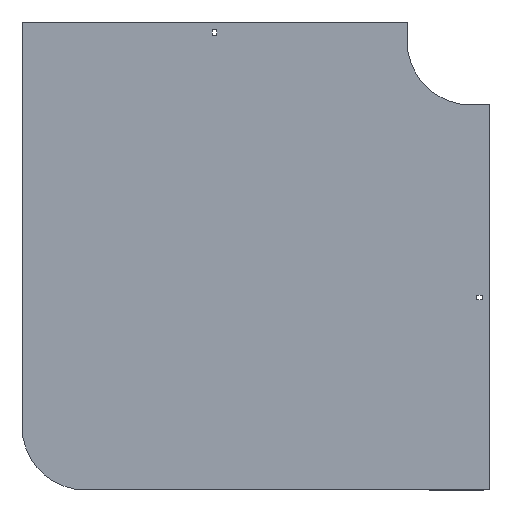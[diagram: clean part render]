
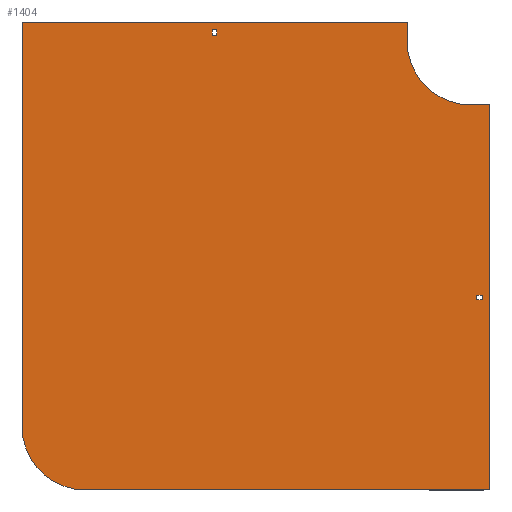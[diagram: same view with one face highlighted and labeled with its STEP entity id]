
A CAD part, front view. The second image highlights one B-rep face of the part: STEP entity #1404.
In plain terms, the highlighted planar face has unit normal (0, -1, 0).
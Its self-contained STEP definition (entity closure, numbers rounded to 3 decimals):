
#8 = CARTESIAN_POINT ( 'NONE',  ( 18., 0., -405.25 ) ) ;
#21 = VERTEX_POINT ( 'NONE', #1930 ) ;
#23 = CARTESIAN_POINT ( 'NONE',  ( 18., 0., -405.25 ) ) ;
#41 = DIRECTION ( 'NONE',  ( 0., 0., -1. ) ) ;
#46 = DIRECTION ( 'NONE',  ( 0., -1., 0. ) ) ;
#74 = DIRECTION ( 'NONE',  ( 0., 0., -1. ) ) ;
#82 = ORIENTED_EDGE ( 'NONE', *, *, #1202, .F. ) ;
#103 = EDGE_CURVE ( 'NONE', #1760, #671, #1568, .T. ) ;
#107 = LINE ( 'NONE', #1190, #1115 ) ;
#117 = CARTESIAN_POINT ( 'NONE',  ( 0., 0., 0. ) ) ;
#131 = CARTESIAN_POINT ( 'NONE',  ( 9., 0., -398.75 ) ) ;
#146 = EDGE_CURVE ( 'NONE', #531, #1051, #1557, .T. ) ;
#157 = VECTOR ( 'NONE', #1189, 1000. ) ;
#175 = LINE ( 'NONE', #1236, #265 ) ;
#181 = CARTESIAN_POINT ( 'NONE',  ( 0., 0., -100. ) ) ;
#184 = FACE_BOUND ( 'NONE', #1017, .T. ) ;
#190 = CARTESIAN_POINT ( 'NONE',  ( -405.25, 0., 9. ) ) ;
#217 = ORIENTED_EDGE ( 'NONE', *, *, #1898, .T. ) ;
#229 = CARTESIAN_POINT ( 'NONE',  ( 9., 0., -405.25 ) ) ;
#231 = ORIENTED_EDGE ( 'NONE', *, *, #238, .F. ) ;
#233 = ORIENTED_EDGE ( 'NONE', *, *, #1103, .F. ) ;
#238 = EDGE_CURVE ( 'NONE', #1575, #1677, #685, .T. ) ;
#244 = ORIENTED_EDGE ( 'NONE', *, *, #612, .T. ) ;
#245 = CARTESIAN_POINT ( 'NONE',  ( -405.25, 0., 9. ) ) ;
#257 = DIRECTION ( 'NONE',  ( -1., 0., 0. ) ) ;
#265 = VECTOR ( 'NONE', #636, 1000. ) ;
#329 = LINE ( 'NONE', #23, #582 ) ;
#336 = LINE ( 'NONE', #797, #1162 ) ;
#366 = EDGE_CURVE ( 'NONE', #487, #1416, #876, .T. ) ;
#368 = CARTESIAN_POINT ( 'NONE',  ( 18., 0., -398.75 ) ) ;
#385 = AXIS2_PLACEMENT_3D ( 'NONE', #1812, #46, #1799 ) ;
#388 = VERTEX_POINT ( 'NONE', #746 ) ;
#391 = LINE ( 'NONE', #245, #1321 ) ;
#468 = EDGE_CURVE ( 'NONE', #671, #1575, #640, .T. ) ;
#481 = VECTOR ( 'NONE', #1926, 1000. ) ;
#486 = FACE_BOUND ( 'NONE', #877, .T. ) ;
#487 = VERTEX_POINT ( 'NONE', #789 ) ;
#494 = CARTESIAN_POINT ( 'NONE',  ( -100., 0., 30. ) ) ;
#527 = ORIENTED_EDGE ( 'NONE', *, *, #103, .F. ) ;
#531 = VERTEX_POINT ( 'NONE', #1087 ) ;
#553 = EDGE_CURVE ( 'NONE', #1541, #1592, #336, .T. ) ;
#582 = VECTOR ( 'NONE', #1690, 1000. ) ;
#609 = EDGE_CURVE ( 'NONE', #891, #693, #840, .T. ) ;
#612 = EDGE_CURVE ( 'NONE', #388, #531, #391, .T. ) ;
#613 = ORIENTED_EDGE ( 'NONE', *, *, #1698, .F. ) ;
#636 = DIRECTION ( 'NONE',  ( 1., 0., 0. ) ) ;
#640 = LINE ( 'NONE', #1843, #1097 ) ;
#666 = CARTESIAN_POINT ( 'NONE',  ( -405.25, 0., 18. ) ) ;
#671 = VERTEX_POINT ( 'NONE', #1315 ) ;
#685 = LINE ( 'NONE', #1444, #1110 ) ;
#693 = VERTEX_POINT ( 'NONE', #1885 ) ;
#718 = ORIENTED_EDGE ( 'NONE', *, *, #1341, .T. ) ;
#746 = CARTESIAN_POINT ( 'NONE',  ( -398.75, 0., 9. ) ) ;
#765 = CARTESIAN_POINT ( 'NONE',  ( -604., 0., -604. ) ) ;
#786 = CARTESIAN_POINT ( 'NONE',  ( -704., 0., 30. ) ) ;
#789 = CARTESIAN_POINT ( 'NONE',  ( -704., 0., -604. ) ) ;
#797 = CARTESIAN_POINT ( 'NONE',  ( -100., 0., 30. ) ) ;
#840 = LINE ( 'NONE', #1452, #1291 ) ;
#844 = LINE ( 'NONE', #229, #1025 ) ;
#853 = CARTESIAN_POINT ( 'NONE',  ( -398.75, 0., 9. ) ) ;
#876 = LINE ( 'NONE', #1183, #481 ) ;
#877 = EDGE_LOOP ( 'NONE', ( #1533, #718, #217, #244 ) ) ;
#891 = VERTEX_POINT ( 'NONE', #1396 ) ;
#938 = FACE_OUTER_BOUND ( 'NONE', #1471, .T. ) ;
#969 = DIRECTION ( 'NONE',  ( -1., 0., 0. ) ) ;
#1017 = EDGE_LOOP ( 'NONE', ( #1366, #1021, #1481, #82 ) ) ;
#1021 = ORIENTED_EDGE ( 'NONE', *, *, #1910, .F. ) ;
#1025 = VECTOR ( 'NONE', #1140, 1000. ) ;
#1043 = ORIENTED_EDGE ( 'NONE', *, *, #1423, .F. ) ;
#1051 = VERTEX_POINT ( 'NONE', #666 ) ;
#1087 = CARTESIAN_POINT ( 'NONE',  ( -405.25, 0., 9. ) ) ;
#1090 = VECTOR ( 'NONE', #1845, 1000. ) ;
#1097 = VECTOR ( 'NONE', #1680, 1000. ) ;
#1099 = DIRECTION ( 'NONE',  ( 0., 0., 1. ) ) ;
#1103 = EDGE_CURVE ( 'NONE', #1592, #1760, #1915, .T. ) ;
#1110 = VECTOR ( 'NONE', #257, 1000. ) ;
#1115 = VECTOR ( 'NONE', #1782, 1000. ) ;
#1140 = DIRECTION ( 'NONE',  ( 1., 0., 0. ) ) ;
#1158 = VECTOR ( 'NONE', #1099, 1000. ) ;
#1159 = LINE ( 'NONE', #853, #1618 ) ;
#1162 = VECTOR ( 'NONE', #41, 1000. ) ;
#1176 = CARTESIAN_POINT ( 'NONE',  ( -100., 0., 0. ) ) ;
#1183 = CARTESIAN_POINT ( 'NONE',  ( -704., 0., -604. ) ) ;
#1189 = DIRECTION ( 'NONE',  ( -1., 0., 0. ) ) ;
#1190 = CARTESIAN_POINT ( 'NONE',  ( -405.25, 0., 18. ) ) ;
#1202 = EDGE_CURVE ( 'NONE', #1609, #891, #1479, .T. ) ;
#1225 = VERTEX_POINT ( 'NONE', #8 ) ;
#1234 = CARTESIAN_POINT ( 'NONE',  ( 0., 0., -100. ) ) ;
#1236 = CARTESIAN_POINT ( 'NONE',  ( -704., 0., 30. ) ) ;
#1291 = VECTOR ( 'NONE', #74, 1000. ) ;
#1309 = ORIENTED_EDGE ( 'NONE', *, *, #553, .F. ) ;
#1315 = CARTESIAN_POINT ( 'NONE',  ( 30., 0., -100. ) ) ;
#1321 = VECTOR ( 'NONE', #969, 1000. ) ;
#1339 = CARTESIAN_POINT ( 'NONE',  ( -604., 0., -704. ) ) ;
#1341 = EDGE_CURVE ( 'NONE', #1051, #21, #107, .T. ) ;
#1366 = ORIENTED_EDGE ( 'NONE', *, *, #1766, .F. ) ;
#1396 = CARTESIAN_POINT ( 'NONE',  ( 9., 0., -398.75 ) ) ;
#1398 = CIRCLE ( 'NONE', #1648, 100. ) ;
#1404 = ADVANCED_FACE ( 'NONE', ( #486, #938, #184 ), #1521, .T. ) ;
#1406 = ORIENTED_EDGE ( 'NONE', *, *, #366, .F. ) ;
#1409 = ORIENTED_EDGE ( 'NONE', *, *, #468, .F. ) ;
#1416 = VERTEX_POINT ( 'NONE', #786 ) ;
#1423 = EDGE_CURVE ( 'NONE', #1416, #1541, #175, .T. ) ;
#1444 = CARTESIAN_POINT ( 'NONE',  ( 30., 0., -704. ) ) ;
#1452 = CARTESIAN_POINT ( 'NONE',  ( 9., 0., -405.25 ) ) ;
#1471 = EDGE_LOOP ( 'NONE', ( #1043, #1406, #613, #231, #1409, #527, #233, #1309 ) ) ;
#1475 = CARTESIAN_POINT ( 'NONE',  ( 30., 0., -704. ) ) ;
#1479 = LINE ( 'NONE', #131, #157 ) ;
#1481 = ORIENTED_EDGE ( 'NONE', *, *, #609, .F. ) ;
#1521 = PLANE ( 'NONE',  #385 ) ;
#1533 = ORIENTED_EDGE ( 'NONE', *, *, #146, .T. ) ;
#1541 = VERTEX_POINT ( 'NONE', #494 ) ;
#1557 = LINE ( 'NONE', #190, #1158 ) ;
#1568 = LINE ( 'NONE', #1234, #1090 ) ;
#1575 = VERTEX_POINT ( 'NONE', #1475 ) ;
#1592 = VERTEX_POINT ( 'NONE', #1176 ) ;
#1595 = DIRECTION ( 'NONE',  ( 0., 0., -1. ) ) ;
#1609 = VERTEX_POINT ( 'NONE', #368 ) ;
#1618 = VECTOR ( 'NONE', #1595, 1000. ) ;
#1647 = DIRECTION ( 'NONE',  ( 0., 0., 1. ) ) ;
#1648 = AXIS2_PLACEMENT_3D ( 'NONE', #765, #1819, #1647 ) ;
#1659 = AXIS2_PLACEMENT_3D ( 'NONE', #117, #1758, #1781 ) ;
#1677 = VERTEX_POINT ( 'NONE', #1339 ) ;
#1680 = DIRECTION ( 'NONE',  ( 0., 0., -1. ) ) ;
#1690 = DIRECTION ( 'NONE',  ( 0., 0., 1. ) ) ;
#1698 = EDGE_CURVE ( 'NONE', #1677, #487, #1398, .T. ) ;
#1758 = DIRECTION ( 'NONE',  ( 0., -1., 0. ) ) ;
#1760 = VERTEX_POINT ( 'NONE', #181 ) ;
#1766 = EDGE_CURVE ( 'NONE', #1225, #1609, #329, .T. ) ;
#1781 = DIRECTION ( 'NONE',  ( 0., 0., -1. ) ) ;
#1782 = DIRECTION ( 'NONE',  ( 1., 0., 0. ) ) ;
#1799 = DIRECTION ( 'NONE',  ( 0., 0., -1. ) ) ;
#1812 = CARTESIAN_POINT ( 'NONE',  ( 0., 0., 0. ) ) ;
#1819 = DIRECTION ( 'NONE',  ( 0., 1., 0. ) ) ;
#1843 = CARTESIAN_POINT ( 'NONE',  ( 30., 0., -100. ) ) ;
#1845 = DIRECTION ( 'NONE',  ( 1., 0., 0. ) ) ;
#1885 = CARTESIAN_POINT ( 'NONE',  ( 9., 0., -405.25 ) ) ;
#1898 = EDGE_CURVE ( 'NONE', #21, #388, #1159, .T. ) ;
#1910 = EDGE_CURVE ( 'NONE', #693, #1225, #844, .T. ) ;
#1915 = CIRCLE ( 'NONE', #1659, 100. ) ;
#1926 = DIRECTION ( 'NONE',  ( 0., 0., 1. ) ) ;
#1930 = CARTESIAN_POINT ( 'NONE',  ( -398.75, 0., 18. ) ) ;
